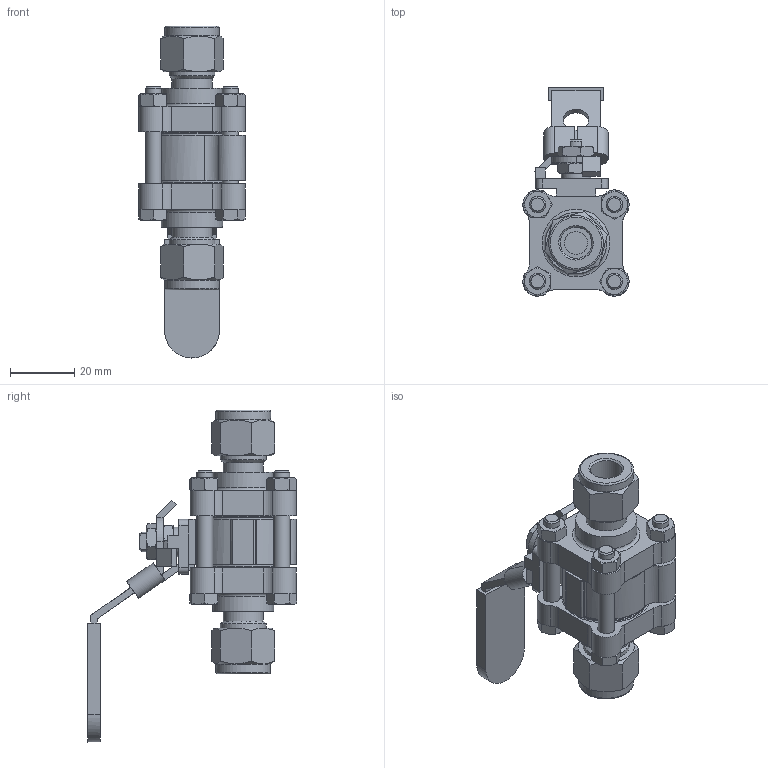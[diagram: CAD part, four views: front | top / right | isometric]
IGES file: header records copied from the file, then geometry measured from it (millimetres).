
Global section: file name: SWB3201-S6; native system: Autodesk Inventor 2016; preprocessor: unknown; author: DESIGNPC2; date: 20160502.104127; units: millimetre
Bounding box: 33.14 x 64.98 x 103.21 mm (x, y, z)
Volume: 41581.9 mm3; surface area: 25358.3 mm2
Topology: 17 solids, 17 shells, 808 faces, 2052 edges, 1341 vertices
Faces by surface type: bspline 808
